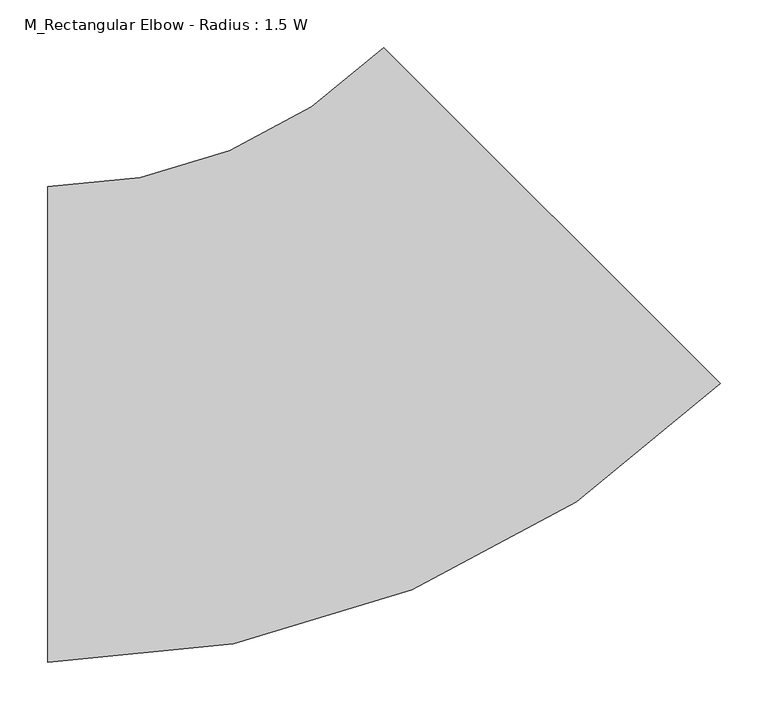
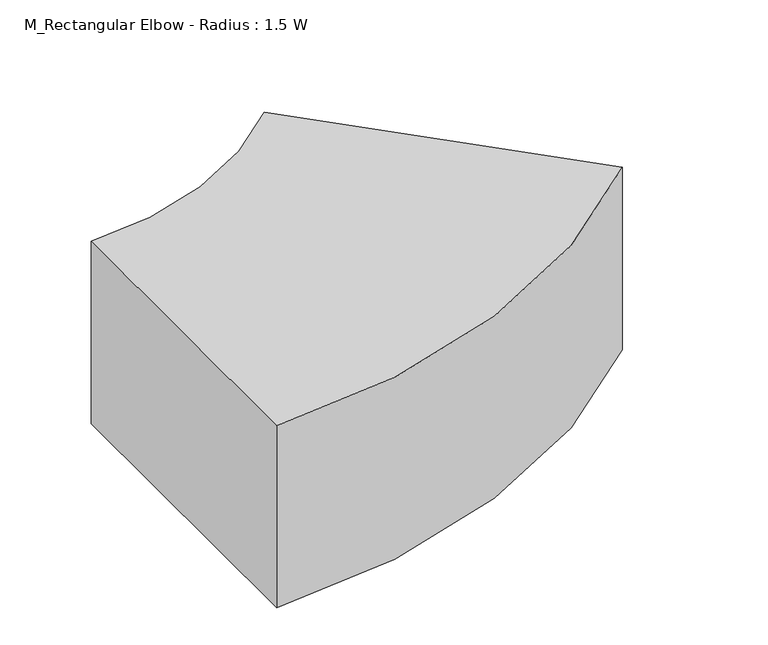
"""IFC4 building model written with IfcOpenShell, lengths in millimetres: duct fitting geometry, M_Rectangular Elbow - Radius : 1.5 W."""

from ifc_helpers import new_model, si_unit, point, frame, frame_2d, origin, place, context, project, spatial, polyline, circle_curve, trimmed, segment, composite_curve, outline, extrude, source, transform, mapped, element, save


def m_rectangular_elbow_radius_1_5_w_acc56c25(model_context):
    return source(origin(), model_context, "Body", "SweptSolid", [
        extrude(outline(composite_curve([segment(trimmed(circle_curve(frame_2d((-310.6601718, 750.0)), 1000.0), [point((396.4466094, 42.8932188))], [point((-310.6601718, -250.0))], False, "CARTESIAN"), True, "CONTINUOUS"), segment(polyline([(-310.6601718, -250.0), (-310.6601718, 250.0)]), True, "CONTINUOUS"), segment(trimmed(circle_curve(frame_2d((-310.6601718, 750.0)), 500.0), [point((-310.6601718, 250.0))], [point((42.8932188, 396.4466094))], True, "CARTESIAN"), True, "CONTINUOUS"), segment(polyline([(42.8932188, 396.4466094), (396.4466094, 42.8932188)]), True, "CONTINUOUS")], self_intersect=False)), frame((0.0, 0.0, -150.0), z_axis=(0.0, 0.0, 1.0), x_axis=(1.0, 0.0, 0.0)), (0.0, 0.0, 1.0), 300.0),
    ])


if __name__ == "__main__":
    model = new_model("IFC4")
    model_context = context("Model", 3, world=origin())
    ifc_project = project(units=[si_unit("LENGTHUNIT", "METRE", prefix="MILLI")], contexts=[model_context])
    site = spatial("IfcSite", under=ifc_project)
    building = spatial("IfcBuilding", under=site)
    placement = place(None, origin())
    m_rectangular_elbow_radius_1_5_w_shape = m_rectangular_elbow_radius_1_5_w_acc56c25(model_context)
    element("IfcDuctFitting", 1, ObjectType="M_Rectangular Elbow - Radius : 1.5 W", at=placement, inside=building, context=model_context, shape_type="MappedRepresentation", body=[
        mapped(m_rectangular_elbow_radius_1_5_w_shape, transform((0.0, 0.0, 0.0), x_axis=(1.0, 0.0, 0.0), y_axis=(0.0, 1.0, 0.0), z_axis=(0.0, 0.0, 1.0))),
    ])
    save(model, "model.ifc")
